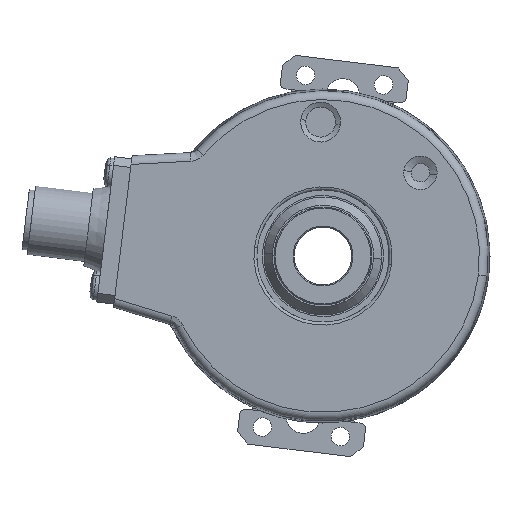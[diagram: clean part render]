
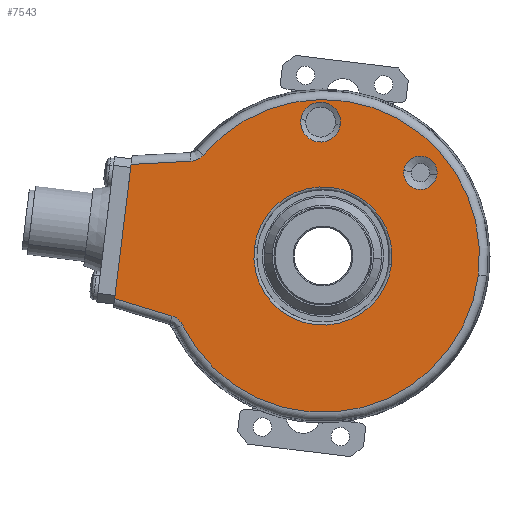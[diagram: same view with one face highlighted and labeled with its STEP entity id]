
A CAD part, left-side view. The second image highlights one B-rep face of the part: STEP entity #7543.
In plain terms, the highlighted planar face has unit normal (-1, 0, 0).
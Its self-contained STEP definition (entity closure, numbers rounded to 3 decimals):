
#3882 = CIRCLE ( 'NONE', #3931, 2.899 ) ;
#3902 = DIRECTION ( 'NONE',  ( 1., 0., 0. ) ) ;
#3903 = CARTESIAN_POINT ( 'NONE',  ( -19., -16.919, 14.45 ) ) ;
#3918 = DIRECTION ( 'NONE',  ( 0., -0.993, -0.122 ) ) ;
#3931 = AXIS2_PLACEMENT_3D ( 'NONE', #3903, #3902, #3918 ) ;
#4402 = CARTESIAN_POINT ( 'NONE',  ( -19., 26.213, -10.418 ) ) ;
#6831 = VERTEX_POINT ( 'NONE', #12231 ) ;
#6839 = EDGE_CURVE ( 'NONE', #6831, #6903, #12229, .T. ) ;
#6873 = EDGE_CURVE ( 'NONE', #6874, #6973, #12387, .T. ) ;
#6874 = VERTEX_POINT ( 'NONE', #12428 ) ;
#6903 = VERTEX_POINT ( 'NONE', #12484 ) ;
#6973 = VERTEX_POINT ( 'NONE', #12595 ) ;
#6977 = VERTEX_POINT ( 'NONE', #12559 ) ;
#7072 = EDGE_CURVE ( 'NONE', #7160, #6977, #12783, .T. ) ;
#7084 = EDGE_CURVE ( 'NONE', #7133, #7134, #12751, .T. ) ;
#7133 = VERTEX_POINT ( 'NONE', #12643 ) ;
#7134 = VERTEX_POINT ( 'NONE', #12638 ) ;
#7160 = VERTEX_POINT ( 'NONE', #12919 ) ;
#7330 = VERTEX_POINT ( 'NONE', #13247 ) ;
#7386 = VERTEX_POINT ( 'NONE', #13449 ) ;
#7394 = VERTEX_POINT ( 'NONE', #13392 ) ;
#7402 = EDGE_CURVE ( 'NONE', #7330, #7394, #13431, .T. ) ;
#7404 = EDGE_CURVE ( 'NONE', #6977, #7160, #13427, .T. ) ;
#7414 = EDGE_CURVE ( 'NONE', #7386, #7394, #13416, .T. ) ;
#7432 = ORIENTED_EDGE ( 'NONE', *, *, #7527, .F. ) ;
#7433 = EDGE_CURVE ( 'NONE', #7538, #7133, #13783, .T. ) ;
#7453 = EDGE_CURVE ( 'NONE', #7386, #7669, #14006, .T. ) ;
#7456 = ORIENTED_EDGE ( 'NONE', *, *, #7072, .T. ) ;
#7473 = EDGE_LOOP ( 'NONE', ( #7629, #7617, #7660, #7545, #7432, #7680, #7681 ) ) ;
#7479 = EDGE_LOOP ( 'NONE', ( #7456, #7530 ) ) ;
#7485 = EDGE_CURVE ( 'NONE', #7330, #7134, #13997, .T. ) ;
#7527 = EDGE_CURVE ( 'NONE', #7538, #7669, #9641, .T. ) ;
#7530 = ORIENTED_EDGE ( 'NONE', *, *, #7404, .T. ) ;
#7534 = EDGE_CURVE ( 'NONE', #6903, #6831, #9981, .T. ) ;
#7538 = VERTEX_POINT ( 'NONE', #9968 ) ;
#7543 = ADVANCED_FACE ( 'NONE', ( #10855, #10854, #10853, #10852 ), #10169, .F. ) ;
#7545 = ORIENTED_EDGE ( 'NONE', *, *, #7453, .T. ) ;
#7554 = EDGE_LOOP ( 'NONE', ( #7607, #7608 ) ) ;
#7607 = ORIENTED_EDGE ( 'NONE', *, *, #6873, .T. ) ;
#7608 = ORIENTED_EDGE ( 'NONE', *, *, #7614, .T. ) ;
#7614 = EDGE_CURVE ( 'NONE', #6973, #6874, #3882, .T. ) ;
#7615 = EDGE_LOOP ( 'NONE', ( #7624, #7625 ) ) ;
#7617 = ORIENTED_EDGE ( 'NONE', *, *, #7402, .T. ) ;
#7624 = ORIENTED_EDGE ( 'NONE', *, *, #6839, .T. ) ;
#7625 = ORIENTED_EDGE ( 'NONE', *, *, #7534, .T. ) ;
#7629 = ORIENTED_EDGE ( 'NONE', *, *, #7485, .F. ) ;
#7660 = ORIENTED_EDGE ( 'NONE', *, *, #7414, .F. ) ;
#7669 = VERTEX_POINT ( 'NONE', #4402 ) ;
#7680 = ORIENTED_EDGE ( 'NONE', *, *, #7433, .T. ) ;
#7681 = ORIENTED_EDGE ( 'NONE', *, *, #7084, .T. ) ;
#9641 = B_SPLINE_CURVE_WITH_KNOTS ( 'NONE', 3,
 ( #9646, #9645, #9644, #9643, #9828, #9827, #9825, #9824, #9822, #9820 ),
 .UNSPECIFIED., .F., .F.,
 ( 4, 2, 2, 2, 4 ),
 ( 0., 0.001, 0.001, 0.002, 0.002 ),
 .UNSPECIFIED. ) ;
#9643 = CARTESIAN_POINT ( 'NONE',  ( -19., 24.848, -11.282 ) ) ;
#9644 = CARTESIAN_POINT ( 'NONE',  ( -19., 24.597, -11.605 ) ) ;
#9645 = CARTESIAN_POINT ( 'NONE',  ( -19., 24.487, -11.781 ) ) ;
#9646 = CARTESIAN_POINT ( 'NONE',  ( -19., 24.396, -11.966 ) ) ;
#9820 = CARTESIAN_POINT ( 'NONE',  ( -19., 26.213, -10.418 ) ) ;
#9822 = CARTESIAN_POINT ( 'NONE',  ( -19., 26.016, -10.478 ) ) ;
#9824 = CARTESIAN_POINT ( 'NONE',  ( -19., 25.828, -10.557 ) ) ;
#9825 = CARTESIAN_POINT ( 'NONE',  ( -19., 25.471, -10.753 ) ) ;
#9827 = CARTESIAN_POINT ( 'NONE',  ( -19., 25.3, -10.87 ) ) ;
#9828 = CARTESIAN_POINT ( 'NONE',  ( -19., 24.989, -11.135 ) ) ;
#9966 = AXIS2_PLACEMENT_3D ( 'NONE', #9986, #9971, #9970 ) ;
#9968 = CARTESIAN_POINT ( 'NONE',  ( -19., 24.396, -11.966 ) ) ;
#9970 = DIRECTION ( 'NONE',  ( 0., -0.993, -0.122 ) ) ;
#9971 = DIRECTION ( 'NONE',  ( 1., 0., 0. ) ) ;
#9981 = CIRCLE ( 'NONE', #9966, 3.466 ) ;
#9986 = CARTESIAN_POINT ( 'NONE',  ( -19., 0.406, 23.246 ) ) ;
#10054 = DIRECTION ( 'NONE',  ( 1., 0., 0. ) ) ;
#10055 = CARTESIAN_POINT ( 'NONE',  ( -19., 0., 0. ) ) ;
#10060 = AXIS2_PLACEMENT_3D ( 'NONE', #10055, #10054, #10149 ) ;
#10149 = DIRECTION ( 'NONE',  ( 0., -0.993, -0.122 ) ) ;
#10169 = PLANE ( 'NONE',  #10060 ) ;
#10852 = FACE_OUTER_BOUND ( 'NONE', #7473, .T. ) ;
#10853 = FACE_BOUND ( 'NONE', #7479, .T. ) ;
#10854 = FACE_BOUND ( 'NONE', #7615, .T. ) ;
#10855 = FACE_BOUND ( 'NONE', #7554, .T. ) ;
#12225 = DIRECTION ( 'NONE',  ( 0., -0.993, -0.122 ) ) ;
#12226 = DIRECTION ( 'NONE',  ( 1., 0., 0. ) ) ;
#12227 = CARTESIAN_POINT ( 'NONE',  ( -19., 0.406, 23.246 ) ) ;
#12228 = AXIS2_PLACEMENT_3D ( 'NONE', #12227, #12226, #12225 ) ;
#12229 = CIRCLE ( 'NONE', #12228, 3.466 ) ;
#12231 = CARTESIAN_POINT ( 'NONE',  ( -19., 3.846, 23.669 ) ) ;
#12381 = DIRECTION ( 'NONE',  ( 0., -0.993, -0.122 ) ) ;
#12382 = DIRECTION ( 'NONE',  ( 1., 0., 0. ) ) ;
#12383 = CARTESIAN_POINT ( 'NONE',  ( -19., -16.919, 14.45 ) ) ;
#12385 = AXIS2_PLACEMENT_3D ( 'NONE', #12383, #12382, #12381 ) ;
#12387 = CIRCLE ( 'NONE', #12385, 2.899 ) ;
#12428 = CARTESIAN_POINT ( 'NONE',  ( -19., -14.042, 14.804 ) ) ;
#12484 = CARTESIAN_POINT ( 'NONE',  ( -19., -3.034, 22.824 ) ) ;
#12559 = CARTESIAN_POINT ( 'NONE',  ( -19., 11.911, 1.462 ) ) ;
#12595 = CARTESIAN_POINT ( 'NONE',  ( -19., -19.796, 14.097 ) ) ;
#12638 = CARTESIAN_POINT ( 'NONE',  ( -19., 20.777, 17.512 ) ) ;
#12643 = CARTESIAN_POINT ( 'NONE',  ( -19., -26.97, -3.312 ) ) ;
#12748 = DIRECTION ( 'NONE',  ( 0., -0.993, -0.122 ) ) ;
#12749 = DIRECTION ( 'NONE',  ( -1., 0., 0. ) ) ;
#12750 = AXIS2_PLACEMENT_3D ( 'NONE', #12784, #12749, #12748 ) ;
#12751 = CIRCLE ( 'NONE', #12750, 27.173 ) ;
#12752 = DIRECTION ( 'NONE',  ( 0., -0.993, -0.122 ) ) ;
#12753 = DIRECTION ( 'NONE',  ( 1., 0., 0. ) ) ;
#12754 = CARTESIAN_POINT ( 'NONE',  ( -19., 0., 0. ) ) ;
#12782 = AXIS2_PLACEMENT_3D ( 'NONE', #12754, #12753, #12752 ) ;
#12783 = CIRCLE ( 'NONE', #12782, 12. ) ;
#12784 = CARTESIAN_POINT ( 'NONE',  ( -19., 0., 0. ) ) ;
#12919 = CARTESIAN_POINT ( 'NONE',  ( -19., -11.911, -1.462 ) ) ;
#13247 = CARTESIAN_POINT ( 'NONE',  ( -19., 22.914, 16.45 ) ) ;
#13343 = DIRECTION ( 'NONE',  ( 0., -0.122, 0.993 ) ) ;
#13344 = VECTOR ( 'NONE', #13343, 1000. ) ;
#13392 = CARTESIAN_POINT ( 'NONE',  ( -19., 33.31, 15.905 ) ) ;
#13415 = CARTESIAN_POINT ( 'NONE',  ( -19., 36.354, -8.886 ) ) ;
#13416 = LINE ( 'NONE', #13415, #13344 ) ;
#13423 = DIRECTION ( 'NONE',  ( 0., -0.993, -0.122 ) ) ;
#13424 = DIRECTION ( 'NONE',  ( 1., 0., 0. ) ) ;
#13425 = CARTESIAN_POINT ( 'NONE',  ( -19., 0., 0. ) ) ;
#13426 = AXIS2_PLACEMENT_3D ( 'NONE', #13425, #13424, #13423 ) ;
#13427 = CIRCLE ( 'NONE', #13426, 12. ) ;
#13428 = DIRECTION ( 'NONE',  ( 0., 0.999, -0.052 ) ) ;
#13429 = VECTOR ( 'NONE', #13428, 1000. ) ;
#13430 = CARTESIAN_POINT ( 'NONE',  ( -19., 33.046, 15.919 ) ) ;
#13431 = LINE ( 'NONE', #13430, #13429 ) ;
#13449 = CARTESIAN_POINT ( 'NONE',  ( -19., 36.168, -7.374 ) ) ;
#13783 = CIRCLE ( 'NONE', #13789, 27.173 ) ;
#13786 = DIRECTION ( 'NONE',  ( 0., -0.993, -0.122 ) ) ;
#13787 = DIRECTION ( 'NONE',  ( -1., 0., 0. ) ) ;
#13788 = CARTESIAN_POINT ( 'NONE',  ( -19., 0., 0. ) ) ;
#13789 = AXIS2_PLACEMENT_3D ( 'NONE', #13788, #13787, #13786 ) ;
#13984 = CARTESIAN_POINT ( 'NONE',  ( -19., 21.917, 16.669 ) ) ;
#13985 = CARTESIAN_POINT ( 'NONE',  ( -19., 22.108, 16.597 ) ) ;
#13986 = CARTESIAN_POINT ( 'NONE',  ( -19., 20.91, 17.355 ) ) ;
#13987 = CARTESIAN_POINT ( 'NONE',  ( -19., 21.056, 17.213 ) ) ;
#13988 = DIRECTION ( 'NONE',  ( 0., -0.956, -0.292 ) ) ;
#13989 = CARTESIAN_POINT ( 'NONE',  ( -19., 21.376, 16.962 ) ) ;
#13990 = CARTESIAN_POINT ( 'NONE',  ( -19., 21.552, 16.851 ) ) ;
#13991 = CARTESIAN_POINT ( 'NONE',  ( -19., 22.914, 16.45 ) ) ;
#13992 = VECTOR ( 'NONE', #13988, 1000. ) ;
#13993 = CARTESIAN_POINT ( 'NONE',  ( -19., 22.503, 16.493 ) ) ;
#13994 = CARTESIAN_POINT ( 'NONE',  ( -19., 22.708, 16.461 ) ) ;
#13997 = B_SPLINE_CURVE_WITH_KNOTS ( 'NONE', 3,
 ( #13991, #13994, #13993, #13985, #13984, #13990, #13989, #13987, #13986, #13999 ),
 .UNSPECIFIED., .F., .F.,
 ( 4, 2, 2, 2, 4 ),
 ( 0., 0.001, 0.001, 0.002, 0.002 ),
 .UNSPECIFIED. ) ;
#13999 = CARTESIAN_POINT ( 'NONE',  ( -19., 20.777, 17.512 ) ) ;
#14006 = LINE ( 'NONE', #14007, #13992 ) ;
#14007 = CARTESIAN_POINT ( 'NONE',  ( -19., 25.556, -10.618 ) ) ;
